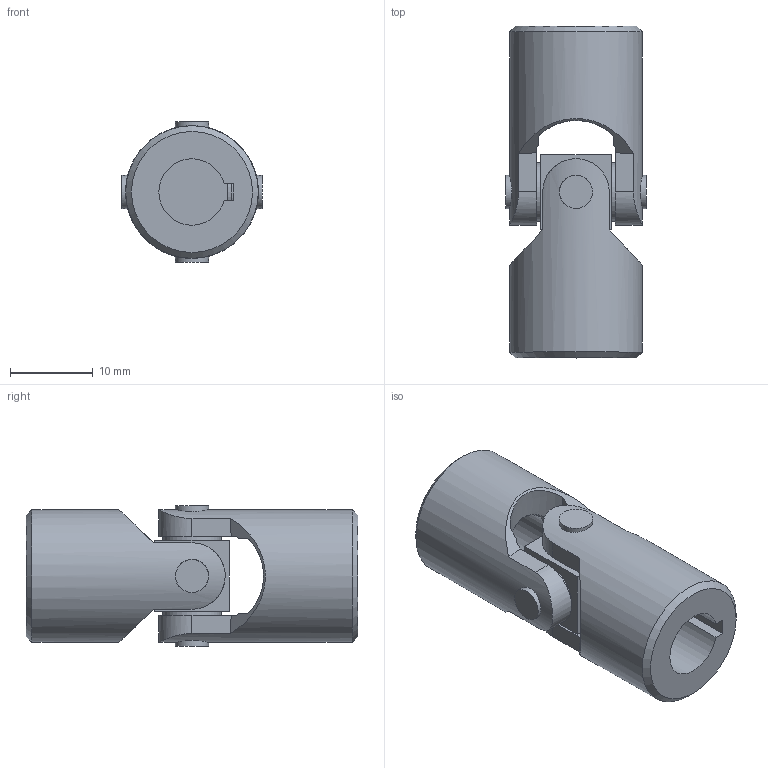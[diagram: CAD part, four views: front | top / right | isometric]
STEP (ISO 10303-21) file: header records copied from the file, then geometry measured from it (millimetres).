
FILE_DESCRIPTION(/* description */ ('EXTENSIBLE TRANSIMISSIONS Series G DIN 808 -2-'),/* implementation_level */ '2;1');
FILE_NAME(/* name */ '\\SRV2016\societa\Stefano\Disegni 3D\0Catalogo 3D\13Singoli X\Ø16_02X_SX0S082C.stp',/* time_stamp */ '2023-05-12T15:51:18+02:00',/* author */ ('acquisti'),/* organization */ ('MARIOFERRI'),/* preprocessor_version */ 'ST-DEVELOPER v15.6',/* originating_system */ 'Autodesk Inventor 2015',/* authorisation */ '');
FILE_SCHEMA (('AUTOMOTIVE_DESIGN { 1 0 10303 214 3 1 1 }'));
Length unit declared in the file: millimetre
Products named in the file (3): 01-02X SFE; 02X MOC; Ø16_02X_SX0S0800
Assembly tree (3 placements, depth 2):
  Ø16_02X_SX0S0800
    01-02X SFE
    02X MOC  x2
Bounding box: 16.9 x 40 x 16.9 mm (x, y, z)
Volume: 5404 mm3; surface area: 3841.5 mm2
Topology: 3 solids, 3 shells, 70 faces, 182 edges, 124 vertices
Faces by surface type: plane 38, cylinder 18, cone 12, torus 2
Full cylindrical faces by diameter (mm): 4 x4, 7 x4, 16 x2
Entity records: 1425 total; most frequent: CARTESIAN_POINT 446, DIRECTION 187, ORIENTED_EDGE 182, EDGE_CURVE 91, AXIS2_PLACEMENT_3D 77, VERTEX_POINT 67, EDGE_LOOP 58, FACE_OUTER_BOUND 42
